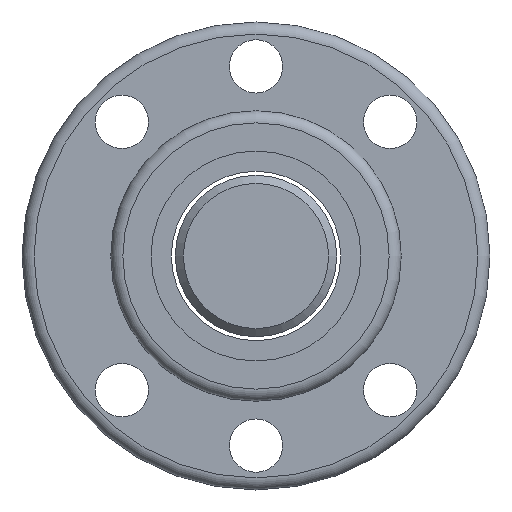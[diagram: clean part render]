
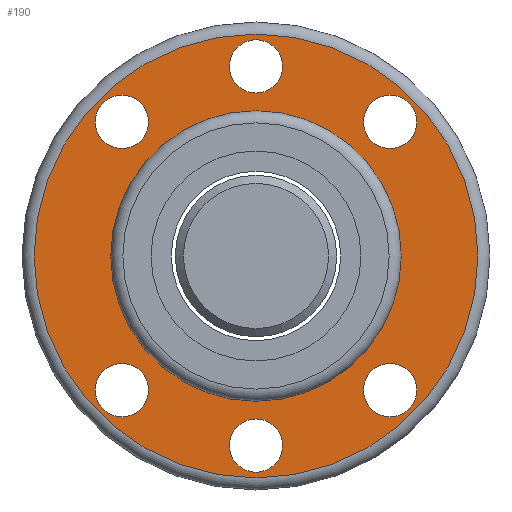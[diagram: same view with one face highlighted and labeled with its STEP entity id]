
A CAD part, left-side view. The second image highlights one B-rep face of the part: STEP entity #190.
In plain terms, the highlighted planar face has unit normal (-1, 0, 0).
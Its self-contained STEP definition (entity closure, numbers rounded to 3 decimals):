
#128=FACE_BOUND('',#249,.T.);
#129=FACE_BOUND('',#250,.T.);
#130=FACE_BOUND('',#251,.T.);
#131=FACE_BOUND('',#252,.T.);
#132=FACE_BOUND('',#253,.T.);
#133=FACE_BOUND('',#254,.T.);
#134=FACE_BOUND('',#255,.T.);
#190=ADVANCED_FACE('',(#128,#129,#130,#131,#132,#133,#134,#232),#219,.F.);
#219=PLANE('',#518);
#232=FACE_OUTER_BOUND('',#256,.T.);
#249=EDGE_LOOP('',(#323));
#250=EDGE_LOOP('',(#324));
#251=EDGE_LOOP('',(#325));
#252=EDGE_LOOP('',(#326));
#253=EDGE_LOOP('',(#327));
#254=EDGE_LOOP('',(#328));
#255=EDGE_LOOP('',(#329));
#256=EDGE_LOOP('',(#330));
#323=ORIENTED_EDGE('',*,*,#430,.T.);
#324=ORIENTED_EDGE('',*,*,#431,.T.);
#325=ORIENTED_EDGE('',*,*,#432,.T.);
#326=ORIENTED_EDGE('',*,*,#433,.T.);
#327=ORIENTED_EDGE('',*,*,#434,.T.);
#328=ORIENTED_EDGE('',*,*,#435,.T.);
#329=ORIENTED_EDGE('',*,*,#436,.F.);
#330=ORIENTED_EDGE('',*,*,#437,.T.);
#393=VERTEX_POINT('',#725);
#394=VERTEX_POINT('',#727);
#395=VERTEX_POINT('',#729);
#396=VERTEX_POINT('',#731);
#397=VERTEX_POINT('',#733);
#398=VERTEX_POINT('',#735);
#399=VERTEX_POINT('',#737);
#400=VERTEX_POINT('',#739);
#430=EDGE_CURVE('',#393,#393,#467,.T.);
#431=EDGE_CURVE('',#394,#394,#468,.T.);
#432=EDGE_CURVE('',#395,#395,#469,.T.);
#433=EDGE_CURVE('',#396,#396,#470,.T.);
#434=EDGE_CURVE('',#397,#397,#471,.T.);
#435=EDGE_CURVE('',#398,#398,#472,.T.);
#436=EDGE_CURVE('',#399,#399,#473,.T.);
#437=EDGE_CURVE('',#400,#400,#474,.T.);
#467=CIRCLE('',#510,3.3);
#468=CIRCLE('',#511,3.3);
#469=CIRCLE('',#512,3.3);
#470=CIRCLE('',#513,3.3);
#471=CIRCLE('',#514,3.3);
#472=CIRCLE('',#515,3.3);
#473=CIRCLE('',#516,18.);
#474=CIRCLE('',#517,27.5);
#510=AXIS2_PLACEMENT_3D('',#724,#590,#591);
#511=AXIS2_PLACEMENT_3D('',#726,#592,#593);
#512=AXIS2_PLACEMENT_3D('',#728,#594,#595);
#513=AXIS2_PLACEMENT_3D('',#730,#596,#597);
#514=AXIS2_PLACEMENT_3D('',#732,#598,#599);
#515=AXIS2_PLACEMENT_3D('',#734,#600,#601);
#516=AXIS2_PLACEMENT_3D('',#736,#602,#603);
#517=AXIS2_PLACEMENT_3D('',#738,#604,#605);
#518=AXIS2_PLACEMENT_3D('',#740,#606,#607);
#590=DIRECTION('',(1.,0.,0.));
#591=DIRECTION('',(0.,1.,0.));
#592=DIRECTION('',(1.,0.,0.));
#593=DIRECTION('',(0.,1.,0.));
#594=DIRECTION('',(1.,0.,0.));
#595=DIRECTION('',(0.,1.,0.));
#596=DIRECTION('',(1.,0.,0.));
#597=DIRECTION('',(0.,1.,0.));
#598=DIRECTION('',(1.,0.,0.));
#599=DIRECTION('',(0.,1.,0.));
#600=DIRECTION('',(1.,0.,0.));
#601=DIRECTION('',(0.,1.,0.));
#602=DIRECTION('',(-1.,0.,0.));
#603=DIRECTION('',(0.,-1.,0.));
#604=DIRECTION('',(-1.,0.,0.));
#605=DIRECTION('',(0.,-1.,0.));
#606=DIRECTION('',(1.,0.,0.));
#607=DIRECTION('',(0.,1.,0.));
#724=CARTESIAN_POINT('',(-25.,0.,-23.5));
#725=CARTESIAN_POINT('',(-25.,3.3,-23.5));
#726=CARTESIAN_POINT('',(-25.,0.,23.5));
#727=CARTESIAN_POINT('',(-25.,3.3,23.5));
#728=CARTESIAN_POINT('',(-25.,16.62,-16.62));
#729=CARTESIAN_POINT('',(-25.,19.92,-16.62));
#730=CARTESIAN_POINT('',(-25.,-16.62,-16.62));
#731=CARTESIAN_POINT('',(-25.,-13.32,-16.62));
#732=CARTESIAN_POINT('',(-25.,-16.62,16.62));
#733=CARTESIAN_POINT('',(-25.,-13.32,16.62));
#734=CARTESIAN_POINT('',(-25.,16.62,16.62));
#735=CARTESIAN_POINT('',(-25.,19.92,16.62));
#736=CARTESIAN_POINT('',(-25.,0.,0.));
#737=CARTESIAN_POINT('',(-25.,-18.,0.));
#738=CARTESIAN_POINT('',(-25.,0.,0.));
#739=CARTESIAN_POINT('',(-25.,-27.5,0.));
#740=CARTESIAN_POINT('',(-25.,22.75,0.));
